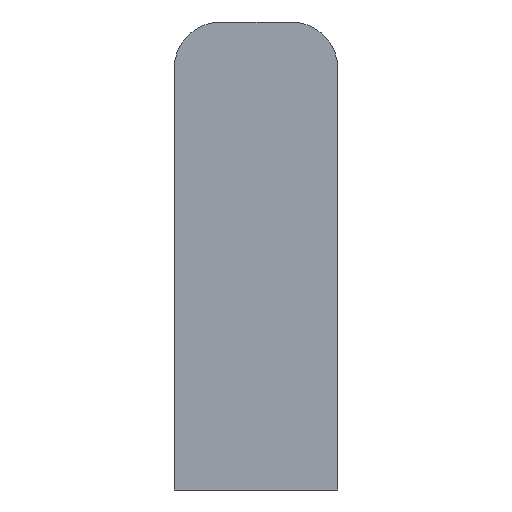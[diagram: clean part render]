
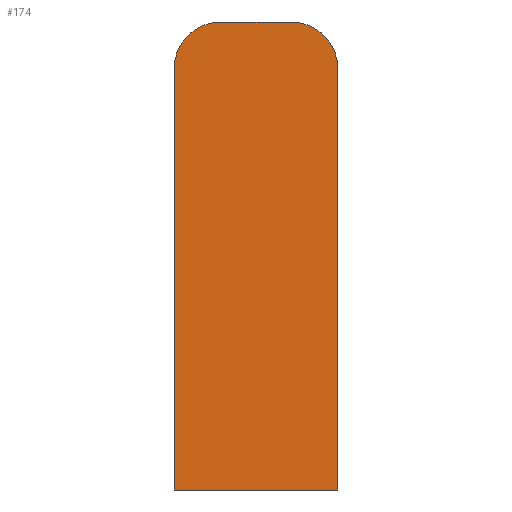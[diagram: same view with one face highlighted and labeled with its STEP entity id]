
A CAD part, front view. The second image highlights one B-rep face of the part: STEP entity #174.
In plain terms, the highlighted planar face has unit normal (0, -1, 0).
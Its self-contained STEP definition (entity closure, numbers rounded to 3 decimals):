
#11 = VERTEX_POINT ( 'NONE', #188 ) ;
#15 = VERTEX_POINT ( 'NONE', #187 ) ;
#19 = VERTEX_POINT ( 'NONE', #182 ) ;
#21 = VERTEX_POINT ( 'NONE', #193 ) ;
#23 = VERTEX_POINT ( 'NONE', #194 ) ;
#28 = VERTEX_POINT ( 'NONE', #191 ) ;
#35 = AXIS2_PLACEMENT_3D ( 'NONE', #232, #239, #240 ) ;
#37 = EDGE_CURVE ( 'NONE', #15, #28, #146, .T. ) ;
#38 = EDGE_CURVE ( 'NONE', #23, #19, #138, .T. ) ;
#41 = EDGE_CURVE ( 'NONE', #21, #23, #123, .T. ) ;
#60 = EDGE_CURVE ( 'NONE', #11, #21, #131, .T. ) ;
#64 = AXIS2_PLACEMENT_3D ( 'NONE', #208, #210, #211 ) ;
#67 = EDGE_CURVE ( 'NONE', #28, #11, #129, .T. ) ;
#71 = EDGE_CURVE ( 'NONE', #19, #15, #159, .T. ) ;
#72 = AXIS2_PLACEMENT_3D ( 'NONE', #241, #243, #244 ) ;
#86 = ORIENTED_EDGE ( 'NONE', *, *, #71, .T. ) ;
#87 = ORIENTED_EDGE ( 'NONE', *, *, #37, .T. ) ;
#89 = ORIENTED_EDGE ( 'NONE', *, *, #60, .T. ) ;
#95 = ORIENTED_EDGE ( 'NONE', *, *, #41, .T. ) ;
#96 = ORIENTED_EDGE ( 'NONE', *, *, #38, .T. ) ;
#103 = EDGE_LOOP ( 'NONE', ( #89, #95, #96, #86, #87, #109 ) ) ;
#109 = ORIENTED_EDGE ( 'NONE', *, *, #67, .T. ) ;
#123 = CIRCLE ( 'NONE', #64, 3. ) ;
#129 = LINE ( 'NONE', #231, #130 ) ;
#130 = VECTOR ( 'NONE', #233, 1000. ) ;
#131 = LINE ( 'NONE', #176, #132 ) ;
#132 = VECTOR ( 'NONE', #222, 1000. ) ;
#138 = LINE ( 'NONE', #202, #147 ) ;
#145 = VECTOR ( 'NONE', #201, 1000. ) ;
#146 = LINE ( 'NONE', #200, #145 ) ;
#147 = VECTOR ( 'NONE', #204, 1000. ) ;
#159 = CIRCLE ( 'NONE', #35, 3. ) ;
#162 = FACE_OUTER_BOUND ( 'NONE', #103, .T. ) ;
#174 = ADVANCED_FACE ( 'NONE', ( #162 ), #229, .F. ) ;
#176 = CARTESIAN_POINT ( 'NONE',  ( 5.25, 0., -16.5 ) ) ;
#182 = CARTESIAN_POINT ( 'NONE',  ( -2.25, 0., 13.5 ) ) ;
#187 = CARTESIAN_POINT ( 'NONE',  ( -5.25, 0., 10.5 ) ) ;
#188 = CARTESIAN_POINT ( 'NONE',  ( 5.25, 0., -16.5 ) ) ;
#191 = CARTESIAN_POINT ( 'NONE',  ( -5.25, 0., -16.5 ) ) ;
#193 = CARTESIAN_POINT ( 'NONE',  ( 5.25, 0., 10.5 ) ) ;
#194 = CARTESIAN_POINT ( 'NONE',  ( 2.25, 0., 13.5 ) ) ;
#200 = CARTESIAN_POINT ( 'NONE',  ( -5.25, 0., -16.5 ) ) ;
#201 = DIRECTION ( 'NONE',  ( 0., 0., -1. ) ) ;
#202 = CARTESIAN_POINT ( 'NONE',  ( 2.25, 0., 13.5 ) ) ;
#204 = DIRECTION ( 'NONE',  ( -1., 0., 0. ) ) ;
#208 = CARTESIAN_POINT ( 'NONE',  ( 2.25, 0., 10.5 ) ) ;
#210 = DIRECTION ( 'NONE',  ( 0., -1., 0. ) ) ;
#211 = DIRECTION ( 'NONE',  ( -1., 0., 0. ) ) ;
#222 = DIRECTION ( 'NONE',  ( 0., 0., 1. ) ) ;
#229 = PLANE ( 'NONE',  #72 ) ;
#231 = CARTESIAN_POINT ( 'NONE',  ( 5.25, 0., -16.5 ) ) ;
#232 = CARTESIAN_POINT ( 'NONE',  ( -2.25, 0., 10.5 ) ) ;
#233 = DIRECTION ( 'NONE',  ( 1., 0., 0. ) ) ;
#239 = DIRECTION ( 'NONE',  ( 0., -1., 0. ) ) ;
#240 = DIRECTION ( 'NONE',  ( -1., 0., 0. ) ) ;
#241 = CARTESIAN_POINT ( 'NONE',  ( 0., 0., -1.5 ) ) ;
#243 = DIRECTION ( 'NONE',  ( 0., 1., 0. ) ) ;
#244 = DIRECTION ( 'NONE',  ( -1., 0., 0. ) ) ;
